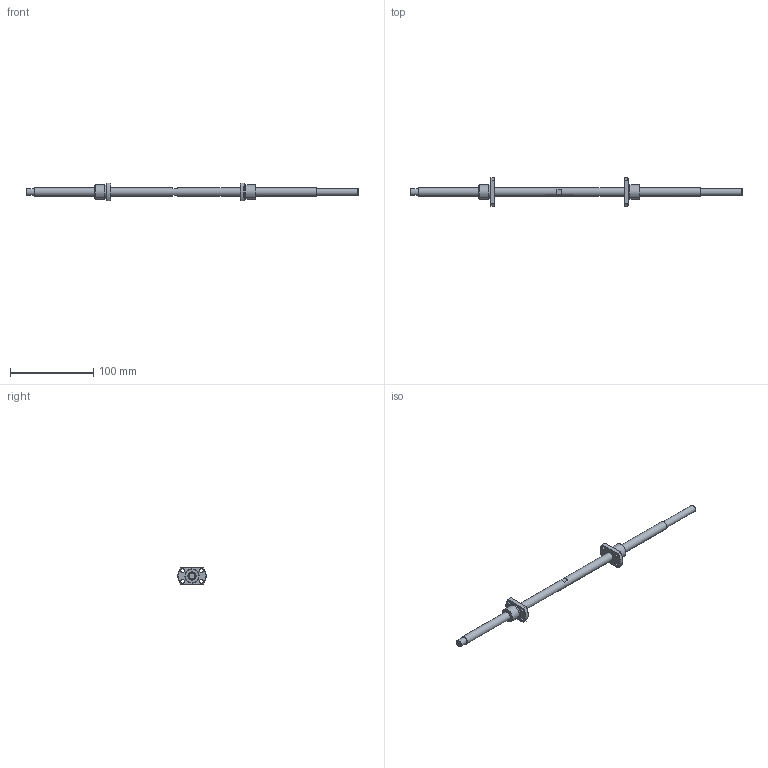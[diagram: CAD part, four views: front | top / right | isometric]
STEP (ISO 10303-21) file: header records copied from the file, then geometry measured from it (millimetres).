
FILE_DESCRIPTION( ( 'STEP AP214' ), ' ' );
FILE_NAME( 'p:/temp/worker_8/904_3764/app_77_12015091122115412228904260eae72_000000_00_00_000000/format_0/SD1002-165L165R400C3(73)(73).stp', '2015-09-11T20:11:54', ( '' ), ( '' ), ' ', 'PARTsolutions', ' ' );
FILE_SCHEMA( ( 'AUTOMOTIVE_DESIGN { 1 0 10303 214 1 1 1 1 }' ) );
Length unit declared in the file: millimetre
Products named in the file (3): SD1002-165L165R400C3(73)(73); _SD1002-165L165R400C3_(7373)Shaft; _SD1002C3_n
Assembly tree (3 placements, depth 2):
  SD1002-165L165R400C3(73)(73)
    _SD1002-165L165R400C3_(7373)Shaft
    _SD1002C3_n  x2
Bounding box: 400 x 34 x 21 mm (x, y, z)
Volume: 39214.7 mm3; surface area: 18663.3 mm2
Topology: 3 solids, 3 shells, 57 faces, 126 edges, 82 vertices
Faces by surface type: plane 22, cylinder 21, cone 14
Full cylindrical faces by diameter (mm): 4.5 x8, 8.3 x2, 10 x3, 16.7 x2, 17 x2
Entity records: 1298 total; most frequent: CARTESIAN_POINT 175, DIRECTION 172, ORIENTED_EDGE 122, AXIS2_PLACEMENT_3D 78, EDGE_LOOP 68, EDGE_CURVE 61, VERTEX_POINT 49, FACE_OUTER_BOUND 47
